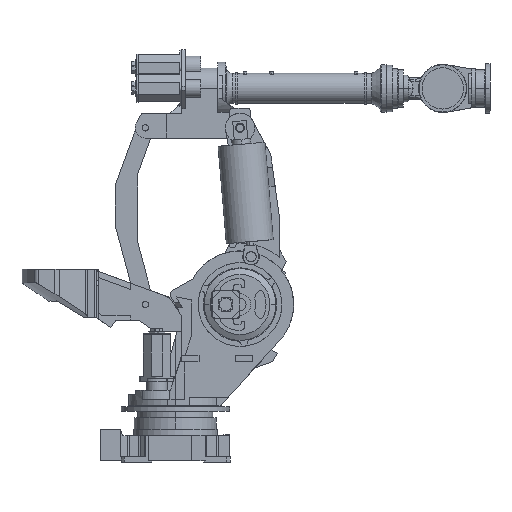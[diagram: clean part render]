
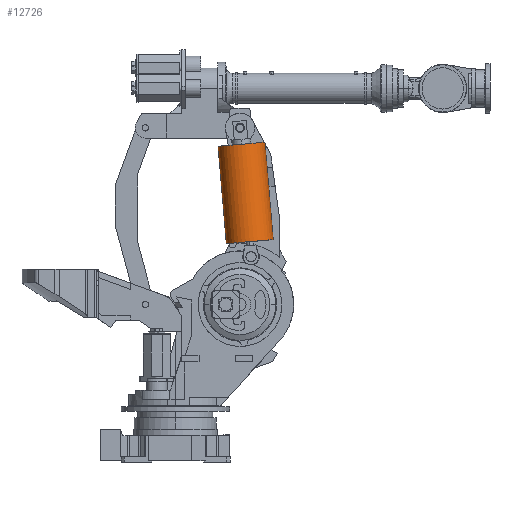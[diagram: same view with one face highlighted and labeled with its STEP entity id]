
A CAD part, front view. The second image highlights one B-rep face of the part: STEP entity #12726.
In plain terms, the highlighted cylindrical face has radius 149.25 mm (diameter 298.5 mm), a partial arc.
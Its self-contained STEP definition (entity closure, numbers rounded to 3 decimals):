
#240 = FACE_OUTER_BOUND ( 'NONE', #28078, .T. ) ;
#1512 = CARTESIAN_POINT ( 'NONE',  ( 270.665, -396., 1003.242 ) ) ;
#4432 = CARTESIAN_POINT ( 'NONE',  ( 620.711, -396., 411.338 ) ) ;
#6813 = AXIS2_PLACEMENT_3D ( 'NONE', #38466, #19460, #26062 ) ;
#11661 = DIRECTION ( 'NONE',  ( 0.085, 0., -0.996 ) ) ;
#12726 = ADVANCED_FACE ( 'NONE', ( #240 ), #12976, .T. ) ;
#12976 = CYLINDRICAL_SURFACE ( 'NONE', #66851, 149.25 ) ;
#13267 = CARTESIAN_POINT ( 'NONE',  ( 323.29, -396., 385.981 ) ) ;
#15682 = CARTESIAN_POINT ( 'NONE',  ( 419.375, -396., 1015.92 ) ) ;
#16771 = VECTOR ( 'NONE', #11661, 1000. ) ;
#17569 = VERTEX_POINT ( 'NONE', #4432 ) ;
#19460 = DIRECTION ( 'NONE',  ( -0.085, 0., 0.996 ) ) ;
#20712 = ORIENTED_EDGE ( 'NONE', *, *, #27267, .F. ) ;
#25919 = ORIENTED_EDGE ( 'NONE', *, *, #77860, .T. ) ;
#26062 = DIRECTION ( 'NONE',  ( 0., -1., 0. ) ) ;
#27267 = EDGE_CURVE ( 'NONE', #46653, #17569, #67116, .T. ) ;
#28078 = EDGE_LOOP ( 'NONE', ( #46953, #25919, #48651, #20712 ) ) ;
#35600 = CARTESIAN_POINT ( 'NONE',  ( 568.086, -396., 1028.599 ) ) ;
#36663 = VERTEX_POINT ( 'NONE', #13267 ) ;
#36726 = EDGE_CURVE ( 'NONE', #46371, #46653, #50143, .T. ) ;
#37404 = EDGE_CURVE ( 'NONE', #36663, #17569, #43792, .T. ) ;
#38466 = CARTESIAN_POINT ( 'NONE',  ( 472., -396., 398.659 ) ) ;
#43792 = CIRCLE ( 'NONE', #6813, 149.25 ) ;
#44039 = VECTOR ( 'NONE', #48654, 1000. ) ;
#46371 = VERTEX_POINT ( 'NONE', #1512 ) ;
#46653 = VERTEX_POINT ( 'NONE', #64278 ) ;
#46953 = ORIENTED_EDGE ( 'NONE', *, *, #36726, .F. ) ;
#47562 = DIRECTION ( 'NONE',  ( 0.996, 0., 0.085 ) ) ;
#48236 = LINE ( 'NONE', #79312, #44039 ) ;
#48651 = ORIENTED_EDGE ( 'NONE', *, *, #37404, .T. ) ;
#48654 = DIRECTION ( 'NONE',  ( 0.085, 0., -0.996 ) ) ;
#50143 = CIRCLE ( 'NONE', #64693, 149.25 ) ;
#53403 = DIRECTION ( 'NONE',  ( -0.085, 0., 0.996 ) ) ;
#53799 = DIRECTION ( 'NONE',  ( 0., -1., 0. ) ) ;
#53808 = DIRECTION ( 'NONE',  ( 0.085, 0., -0.996 ) ) ;
#64278 = CARTESIAN_POINT ( 'NONE',  ( 568.086, -396., 1028.599 ) ) ;
#64693 = AXIS2_PLACEMENT_3D ( 'NONE', #15682, #53403, #53799 ) ;
#66851 = AXIS2_PLACEMENT_3D ( 'NONE', #70479, #53808, #47562 ) ;
#67116 = LINE ( 'NONE', #35600, #16771 ) ;
#70479 = CARTESIAN_POINT ( 'NONE',  ( 419.375, -396., 1015.92 ) ) ;
#77860 = EDGE_CURVE ( 'NONE', #46371, #36663, #48236, .T. ) ;
#79312 = CARTESIAN_POINT ( 'NONE',  ( 270.665, -396., 1003.242 ) ) ;
